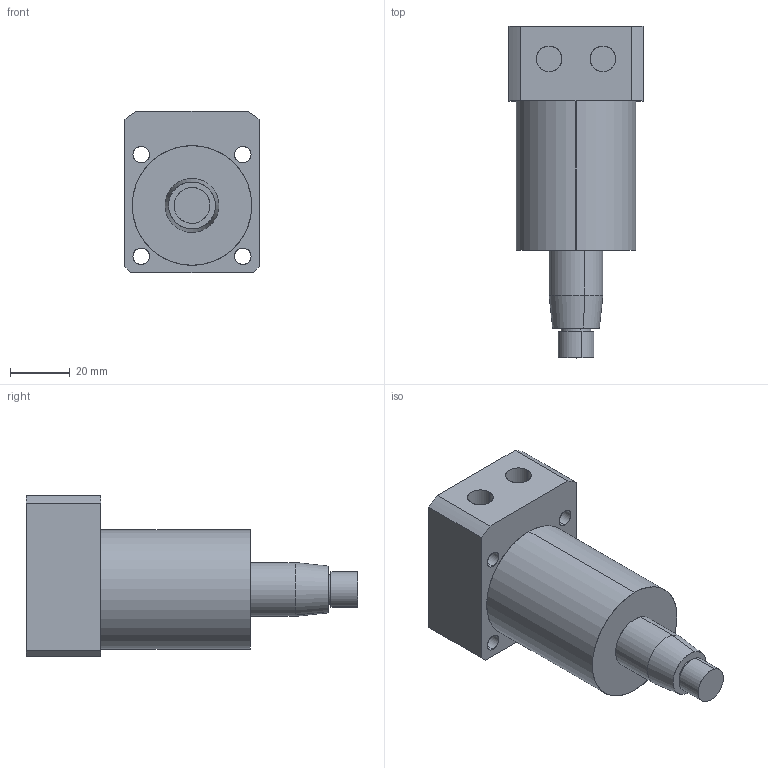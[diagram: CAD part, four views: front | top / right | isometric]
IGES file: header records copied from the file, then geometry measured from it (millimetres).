
Start section: SolidWorks IGES file using analytic representation for surfaces
Global section: file name: E:\karthik\CLASYS\Pneumatic Swing cylinders\Bottom cyl 0312\0312-0401\pneu 40.IGS; native system: SolidWorks 2010; preprocessor: SolidWorks 2010; author: karthik; date: 130914.164944; units: millimetre
Bounding box: 45 x 111 x 54 mm (x, y, z)
Surface area: 21038 mm2 (no closed solid volume)
Topology: 0 solids, 0 shells, 45 faces, 984 edges, 984 vertices
Faces by surface type: revolution 28, bspline 17
